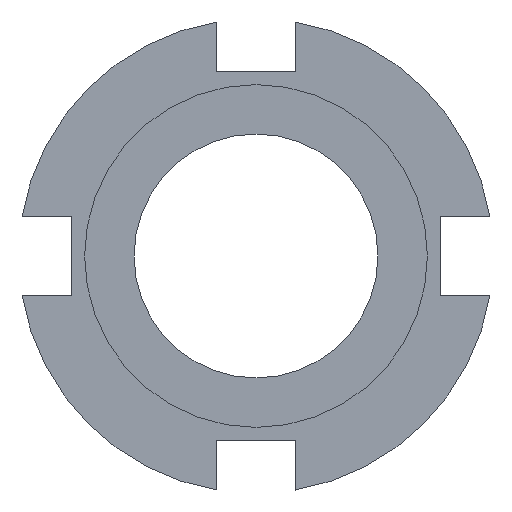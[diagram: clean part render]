
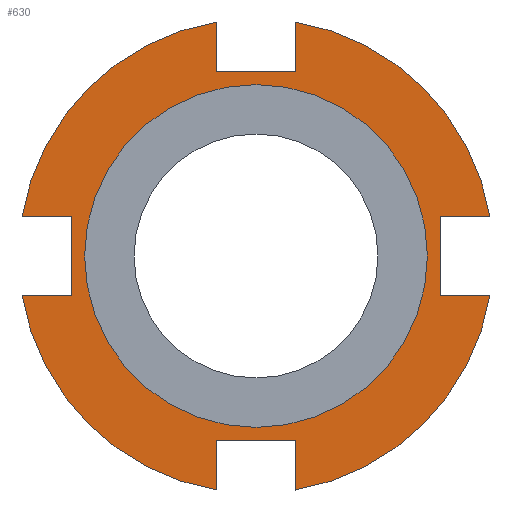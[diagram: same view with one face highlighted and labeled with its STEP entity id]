
A CAD part, left-side view. The second image highlights one B-rep face of the part: STEP entity #630.
In plain terms, the highlighted planar face has unit normal (-1, 0, 0).
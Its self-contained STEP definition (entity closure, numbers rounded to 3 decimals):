
#12 = EDGE_CURVE ( 'NONE', #126, #123, #243, .T. ) ;
#13 = VERTEX_POINT ( 'NONE', #247 ) ;
#14 = ORIENTED_EDGE ( 'NONE', *, *, #749, .T. ) ;
#27 = EDGE_CURVE ( 'NONE', #739, #13, #393, .T. ) ;
#29 = VERTEX_POINT ( 'NONE', #412 ) ;
#36 = ORIENTED_EDGE ( 'NONE', *, *, #38, .T. ) ;
#38 = EDGE_CURVE ( 'NONE', #89, #784, #457, .T. ) ;
#41 = ORIENTED_EDGE ( 'NONE', *, *, #12, .T. ) ;
#47 = ORIENTED_EDGE ( 'NONE', *, *, #320, .T. ) ;
#49 = EDGE_CURVE ( 'NONE', #323, #29, #519, .T. ) ;
#50 = VERTEX_POINT ( 'NONE', #523 ) ;
#55 = ORIENTED_EDGE ( 'NONE', *, *, #788, .T. ) ;
#62 = ORIENTED_EDGE ( 'NONE', *, *, #27, .T. ) ;
#68 = VERTEX_POINT ( 'NONE', #601 ) ;
#77 = EDGE_CURVE ( 'NONE', #68, #321, #620, .T. ) ;
#84 = EDGE_CURVE ( 'NONE', #731, #50, #355, .T. ) ;
#87 = ORIENTED_EDGE ( 'NONE', *, *, #49, .T. ) ;
#89 = VERTEX_POINT ( 'NONE', #413 ) ;
#101 = EDGE_LOOP ( 'NONE', ( #47, #14, #232, #786, #782, #742, #87, #55, #758, #399, #36, #752, #122, #62, #669, #41 ) ) ;
#113 = EDGE_CURVE ( 'NONE', #50, #89, #161, .T. ) ;
#115 = ORIENTED_EDGE ( 'NONE', *, *, #706, .F. ) ;
#116 = EDGE_CURVE ( 'NONE', #732, #68, #172, .T. ) ;
#122 = ORIENTED_EDGE ( 'NONE', *, *, #774, .T. ) ;
#123 = VERTEX_POINT ( 'NONE', #199 ) ;
#124 = VERTEX_POINT ( 'NONE', #200 ) ;
#126 = VERTEX_POINT ( 'NONE', #202 ) ;
#130 = CARTESIAN_POINT ( 'NONE',  ( 0.5, 1.5, 8.874 ) ) ;
#161 = LINE ( 'NONE', #163, #164 ) ;
#163 = CARTESIAN_POINT ( 'NONE',  ( 0.5, -1.5, 0. ) ) ;
#164 = VECTOR ( 'NONE', #165, 1000. ) ;
#165 = DIRECTION ( 'NONE',  ( 0., 0., -1. ) ) ;
#172 = LINE ( 'NONE', #173, #174 ) ;
#173 = CARTESIAN_POINT ( 'NONE',  ( 0.5, 6.5, -7. ) ) ;
#174 = VECTOR ( 'NONE', #175, 1000. ) ;
#175 = DIRECTION ( 'NONE',  ( 0., -1., 0. ) ) ;
#197 = ORIENTED_EDGE ( 'NONE', *, *, #776, .F. ) ;
#199 = CARTESIAN_POINT ( 'NONE',  ( 0.5, 8.874, -1.5 ) ) ;
#200 = CARTESIAN_POINT ( 'NONE',  ( 0.5, -8.874, -1.5 ) ) ;
#202 = CARTESIAN_POINT ( 'NONE',  ( 0.5, 7., -1.5 ) ) ;
#222 = CIRCLE ( 'NONE', #223, 9. ) ;
#223 = AXIS2_PLACEMENT_3D ( 'NONE', #224, #225, #226 ) ;
#224 = CARTESIAN_POINT ( 'NONE',  ( 0.5, 0., 0. ) ) ;
#225 = DIRECTION ( 'NONE',  ( -1., 0., 0. ) ) ;
#226 = DIRECTION ( 'NONE',  ( 0., 0., 1. ) ) ;
#231 = CIRCLE ( 'NONE', #233, 6.5 ) ;
#232 = ORIENTED_EDGE ( 'NONE', *, *, #116, .T. ) ;
#233 = AXIS2_PLACEMENT_3D ( 'NONE', #234, #235, #236 ) ;
#234 = CARTESIAN_POINT ( 'NONE',  ( 0.5, 0., 0. ) ) ;
#235 = DIRECTION ( 'NONE',  ( -1., 0., 0. ) ) ;
#236 = DIRECTION ( 'NONE',  ( 0., 0., 1. ) ) ;
#238 = CARTESIAN_POINT ( 'NONE',  ( 0.5, 1.5, -8.874 ) ) ;
#243 = LINE ( 'NONE', #244, #245 ) ;
#244 = CARTESIAN_POINT ( 'NONE',  ( 0.5, 6.5, -1.5 ) ) ;
#245 = VECTOR ( 'NONE', #246, 1000. ) ;
#246 = DIRECTION ( 'NONE',  ( 0., 1., 0. ) ) ;
#247 = CARTESIAN_POINT ( 'NONE',  ( 0.5, 7., 1.5 ) ) ;
#268 = VERTEX_POINT ( 'NONE', #278 ) ;
#278 = CARTESIAN_POINT ( 'NONE',  ( 0.5, 0., -6.5 ) ) ;
#279 = CARTESIAN_POINT ( 'NONE',  ( 0.5, 1.5, 7. ) ) ;
#297 = CIRCLE ( 'NONE', #298, 9. ) ;
#298 = AXIS2_PLACEMENT_3D ( 'NONE', #299, #300, #301 ) ;
#299 = CARTESIAN_POINT ( 'NONE',  ( 0.5, 0., 0. ) ) ;
#300 = DIRECTION ( 'NONE',  ( -1., 0., 0. ) ) ;
#301 = DIRECTION ( 'NONE',  ( 0., 0., 1. ) ) ;
#303 = CARTESIAN_POINT ( 'NONE',  ( 0.5, -1.5, -8.874 ) ) ;
#305 = CARTESIAN_POINT ( 'NONE',  ( 0.5, -7., -1.5 ) ) ;
#306 = LINE ( 'NONE', #307, #308 ) ;
#307 = CARTESIAN_POINT ( 'NONE',  ( 0.5, 7., 0. ) ) ;
#308 = VECTOR ( 'NONE', #309, 1000. ) ;
#309 = DIRECTION ( 'NONE',  ( 0., 0., -1. ) ) ;
#314 = LINE ( 'NONE', #315, #316 ) ;
#315 = CARTESIAN_POINT ( 'NONE',  ( 0.5, 6.5, 1.5 ) ) ;
#316 = VECTOR ( 'NONE', #317, 1000. ) ;
#317 = DIRECTION ( 'NONE',  ( 0., -1., 0. ) ) ;
#320 = EDGE_CURVE ( 'NONE', #123, #778, #297, .T. ) ;
#321 = VERTEX_POINT ( 'NONE', #303 ) ;
#323 = VERTEX_POINT ( 'NONE', #305 ) ;
#324 = EDGE_CURVE ( 'NONE', #13, #126, #306, .T. ) ;
#334 = LINE ( 'NONE', #335, #336 ) ;
#335 = CARTESIAN_POINT ( 'NONE',  ( 0.5, 1.5, 0. ) ) ;
#336 = VECTOR ( 'NONE', #337, 1000. ) ;
#337 = DIRECTION ( 'NONE',  ( 0., 0., 1. ) ) ;
#355 = CIRCLE ( 'NONE', #356, 9. ) ;
#356 = AXIS2_PLACEMENT_3D ( 'NONE', #357, #358, #359 ) ;
#357 = CARTESIAN_POINT ( 'NONE',  ( 0.5, 0., 0. ) ) ;
#358 = DIRECTION ( 'NONE',  ( -1., 0., 0. ) ) ;
#359 = DIRECTION ( 'NONE',  ( 0., 0., 1. ) ) ;
#393 = LINE ( 'NONE', #394, #395 ) ;
#394 = CARTESIAN_POINT ( 'NONE',  ( 0.5, 6.5, 1.5 ) ) ;
#395 = VECTOR ( 'NONE', #401, 1000. ) ;
#399 = ORIENTED_EDGE ( 'NONE', *, *, #113, .T. ) ;
#401 = DIRECTION ( 'NONE',  ( 0., -1., 0. ) ) ;
#412 = CARTESIAN_POINT ( 'NONE',  ( 0.5, -7., 1.5 ) ) ;
#413 = CARTESIAN_POINT ( 'NONE',  ( 0.5, -1.5, 7. ) ) ;
#417 = EDGE_LOOP ( 'NONE', ( #115, #197 ) ) ;
#456 = CARTESIAN_POINT ( 'NONE',  ( 0.5, 0., 6.5 ) ) ;
#457 = LINE ( 'NONE', #458, #459 ) ;
#458 = CARTESIAN_POINT ( 'NONE',  ( 0.5, 6.5, 7. ) ) ;
#459 = VECTOR ( 'NONE', #460, 1000. ) ;
#460 = DIRECTION ( 'NONE',  ( 0., 1., 0. ) ) ;
#465 = CIRCLE ( 'NONE', #466, 9. ) ;
#466 = AXIS2_PLACEMENT_3D ( 'NONE', #467, #468, #469 ) ;
#467 = CARTESIAN_POINT ( 'NONE',  ( 0.5, 0., 0. ) ) ;
#468 = DIRECTION ( 'NONE',  ( -1., 0., 0. ) ) ;
#469 = DIRECTION ( 'NONE',  ( 0., 0., 1. ) ) ;
#478 = LINE ( 'NONE', #479, #480 ) ;
#479 = CARTESIAN_POINT ( 'NONE',  ( 0.5, 6.5, -1.5 ) ) ;
#480 = VECTOR ( 'NONE', #481, 1000. ) ;
#481 = DIRECTION ( 'NONE',  ( 0., 1., 0. ) ) ;
#490 = VERTEX_POINT ( 'NONE', #456 ) ;
#496 = LINE ( 'NONE', #497, #498 ) ;
#497 = CARTESIAN_POINT ( 'NONE',  ( 0.5, 1.5, 0. ) ) ;
#498 = VECTOR ( 'NONE', #499, 1000. ) ;
#499 = DIRECTION ( 'NONE',  ( 0., 0., 1. ) ) ;
#506 = FACE_BOUND ( 'NONE', #417, .T. ) ;
#507 = FACE_OUTER_BOUND ( 'NONE', #101, .T. ) ;
#509 = PLANE ( 'NONE',  #510 ) ;
#510 = AXIS2_PLACEMENT_3D ( 'NONE', #511, #512, #513 ) ;
#511 = CARTESIAN_POINT ( 'NONE',  ( 0.5, 6.5, 0. ) ) ;
#512 = DIRECTION ( 'NONE',  ( 1., 0., 0. ) ) ;
#513 = DIRECTION ( 'NONE',  ( 0., 0., -1. ) ) ;
#519 = LINE ( 'NONE', #520, #521 ) ;
#520 = CARTESIAN_POINT ( 'NONE',  ( 0.5, -7., 0. ) ) ;
#521 = VECTOR ( 'NONE', #522, 1000. ) ;
#522 = DIRECTION ( 'NONE',  ( 0., 0., 1. ) ) ;
#523 = CARTESIAN_POINT ( 'NONE',  ( 0.5, -1.5, 8.874 ) ) ;
#543 = EDGE_CURVE ( 'NONE', #321, #124, #465, .T. ) ;
#546 = EDGE_CURVE ( 'NONE', #124, #323, #478, .T. ) ;
#563 = CIRCLE ( 'NONE', #565, 6.5 ) ;
#565 = AXIS2_PLACEMENT_3D ( 'NONE', #566, #567, #568 ) ;
#566 = CARTESIAN_POINT ( 'NONE',  ( 0.5, 0., 0. ) ) ;
#567 = DIRECTION ( 'NONE',  ( -1., 0., 0. ) ) ;
#568 = DIRECTION ( 'NONE',  ( 0., 0., 1. ) ) ;
#590 = CARTESIAN_POINT ( 'NONE',  ( 0.5, -8.874, 1.5 ) ) ;
#591 = CARTESIAN_POINT ( 'NONE',  ( 0.5, 1.5, -7. ) ) ;
#599 = EDGE_CURVE ( 'NONE', #784, #769, #496, .T. ) ;
#601 = CARTESIAN_POINT ( 'NONE',  ( 0.5, -1.5, -7. ) ) ;
#608 = CARTESIAN_POINT ( 'NONE',  ( 0.5, 8.874, 1.5 ) ) ;
#620 = LINE ( 'NONE', #621, #622 ) ;
#621 = CARTESIAN_POINT ( 'NONE',  ( 0.5, -1.5, 0. ) ) ;
#622 = VECTOR ( 'NONE', #623, 1000. ) ;
#623 = DIRECTION ( 'NONE',  ( 0., 0., -1. ) ) ;
#630 = ADVANCED_FACE ( 'NONE', ( #506, #507 ), #509, .F. ) ;
#669 = ORIENTED_EDGE ( 'NONE', *, *, #324, .T. ) ;
#706 = EDGE_CURVE ( 'NONE', #490, #268, #563, .T. ) ;
#731 = VERTEX_POINT ( 'NONE', #590 ) ;
#732 = VERTEX_POINT ( 'NONE', #591 ) ;
#739 = VERTEX_POINT ( 'NONE', #608 ) ;
#742 = ORIENTED_EDGE ( 'NONE', *, *, #546, .T. ) ;
#749 = EDGE_CURVE ( 'NONE', #778, #732, #334, .T. ) ;
#752 = ORIENTED_EDGE ( 'NONE', *, *, #599, .T. ) ;
#758 = ORIENTED_EDGE ( 'NONE', *, *, #84, .T. ) ;
#769 = VERTEX_POINT ( 'NONE', #130 ) ;
#774 = EDGE_CURVE ( 'NONE', #769, #739, #222, .T. ) ;
#776 = EDGE_CURVE ( 'NONE', #268, #490, #231, .T. ) ;
#778 = VERTEX_POINT ( 'NONE', #238 ) ;
#782 = ORIENTED_EDGE ( 'NONE', *, *, #543, .T. ) ;
#784 = VERTEX_POINT ( 'NONE', #279 ) ;
#786 = ORIENTED_EDGE ( 'NONE', *, *, #77, .T. ) ;
#788 = EDGE_CURVE ( 'NONE', #29, #731, #314, .T. ) ;
